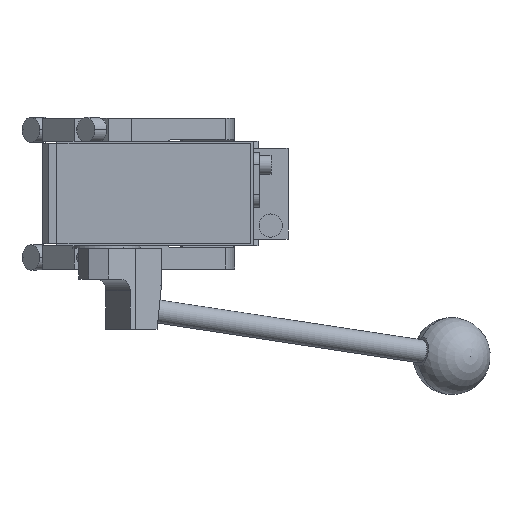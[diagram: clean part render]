
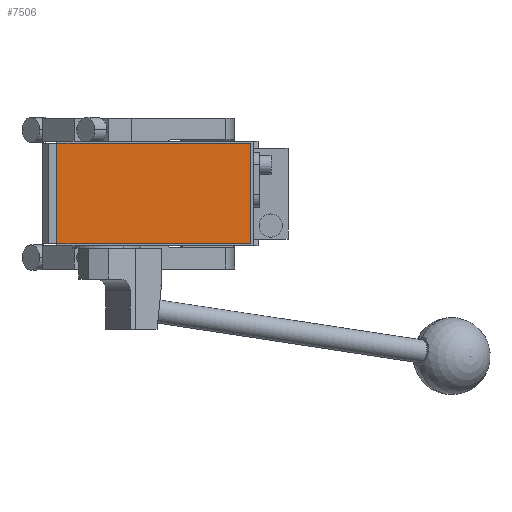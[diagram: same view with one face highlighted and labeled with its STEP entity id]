
A CAD part, front view. The second image highlights one B-rep face of the part: STEP entity #7506.
In plain terms, the highlighted planar face has unit normal (0, -1, 0).
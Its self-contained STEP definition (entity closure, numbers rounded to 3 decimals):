
#91 = ORIENTED_EDGE ( 'NONE', *, *, #4218, .T. ) ;
#1096 = ORIENTED_EDGE ( 'NONE', *, *, #5511, .T. ) ;
#1404 = EDGE_CURVE ( 'NONE', #7165, #2894, #12578, .T. ) ;
#1770 = DIRECTION ( 'NONE',  ( 1., 0., 0. ) ) ;
#2289 = LINE ( 'NONE', #3345, #8015 ) ;
#2493 = CARTESIAN_POINT ( 'NONE',  ( 81., -286.5, -26. ) ) ;
#2767 = VERTEX_POINT ( 'NONE', #2493 ) ;
#2894 = VERTEX_POINT ( 'NONE', #11218 ) ;
#3345 = CARTESIAN_POINT ( 'NONE',  ( 81., -286.5, 26. ) ) ;
#4218 = EDGE_CURVE ( 'NONE', #2767, #7165, #2289, .T. ) ;
#4257 = DIRECTION ( 'NONE',  ( -1., 0., 0. ) ) ;
#4523 = DIRECTION ( 'NONE',  ( 0., 0., -1. ) ) ;
#5357 = DIRECTION ( 'NONE',  ( 0., -1., 0. ) ) ;
#5408 = LINE ( 'NONE', #10486, #14077 ) ;
#5456 = EDGE_LOOP ( 'NONE', ( #11159, #1096, #91, #10817 ) ) ;
#5469 = CARTESIAN_POINT ( 'NONE',  ( -19., -286.5, 26. ) ) ;
#5511 = EDGE_CURVE ( 'NONE', #7375, #2767, #8624, .T. ) ;
#6857 = DIRECTION ( 'NONE',  ( 0., 0., 1. ) ) ;
#7165 = VERTEX_POINT ( 'NONE', #12405 ) ;
#7375 = VERTEX_POINT ( 'NONE', #8753 ) ;
#7506 = ADVANCED_FACE ( 'NONE', ( #7671 ), #12309, .T. ) ;
#7671 = FACE_OUTER_BOUND ( 'NONE', #5456, .T. ) ;
#8015 = VECTOR ( 'NONE', #6857, 1000. ) ;
#8624 = LINE ( 'NONE', #12136, #8930 ) ;
#8753 = CARTESIAN_POINT ( 'NONE',  ( -19., -286.5, -26. ) ) ;
#8930 = VECTOR ( 'NONE', #1770, 1000. ) ;
#8993 = EDGE_CURVE ( 'NONE', #2894, #7375, #5408, .T. ) ;
#9190 = DIRECTION ( 'NONE',  ( 0., 0., -1. ) ) ;
#9305 = AXIS2_PLACEMENT_3D ( 'NONE', #11180, #5357, #4523 ) ;
#10486 = CARTESIAN_POINT ( 'NONE',  ( -19., -286.5, 26. ) ) ;
#10817 = ORIENTED_EDGE ( 'NONE', *, *, #1404, .T. ) ;
#10914 = VECTOR ( 'NONE', #4257, 1000. ) ;
#11159 = ORIENTED_EDGE ( 'NONE', *, *, #8993, .T. ) ;
#11180 = CARTESIAN_POINT ( 'NONE',  ( 0., -286.5, 0. ) ) ;
#11218 = CARTESIAN_POINT ( 'NONE',  ( -19., -286.5, 26. ) ) ;
#12136 = CARTESIAN_POINT ( 'NONE',  ( -19., -286.5, -26. ) ) ;
#12309 = PLANE ( 'NONE',  #9305 ) ;
#12405 = CARTESIAN_POINT ( 'NONE',  ( 81., -286.5, 26. ) ) ;
#12578 = LINE ( 'NONE', #5469, #10914 ) ;
#14077 = VECTOR ( 'NONE', #9190, 1000. ) ;
